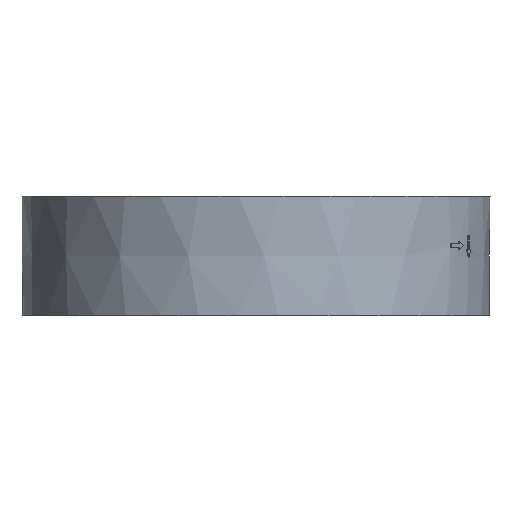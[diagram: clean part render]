
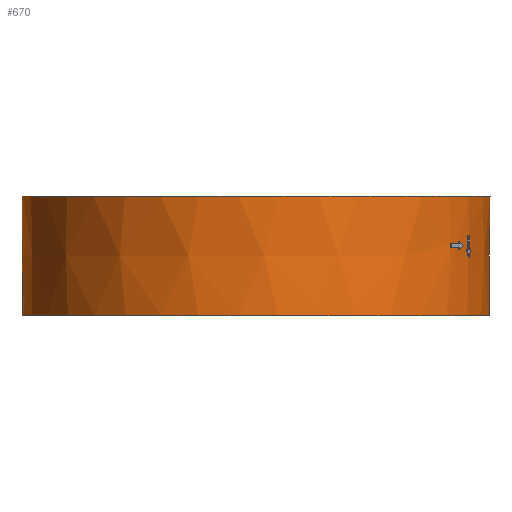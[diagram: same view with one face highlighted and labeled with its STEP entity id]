
A CAD part, left-side view. The second image highlights one B-rep face of the part: STEP entity #670.
In plain terms, the highlighted conical face has half-angle 0.5 degrees and reference radius 75 mm.
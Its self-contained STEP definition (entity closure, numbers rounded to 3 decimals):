
#347=CONICAL_SURFACE('',#7737,75.,0.5);
#365=ELLIPSE('',#7480,6655.148,100.59);
#371=ELLIPSE('',#7523,4982.238,75.305);
#397=FACE_BOUND('',#1682,.T.);
#398=FACE_BOUND('',#1683,.T.);
#399=FACE_BOUND('',#1684,.T.);
#670=ADVANCED_FACE('',(#397,#398,#399),#347,.T.);
#1682=EDGE_LOOP('',(#4321,#4322,#4323,#4324));
#1683=EDGE_LOOP('',(#4325,#4326,#4327,#4328,#4329,#4330,#4331));
#1684=EDGE_LOOP('',(#4332,#4333,#4334,#4335,#4336,#4337,#4338));
#2156=B_SPLINE_CURVE_WITH_KNOTS('',3,(#13487,#13488,#13489,#13490),
 .UNSPECIFIED.,.F.,.F.,(4,4),(0.,1.),.UNSPECIFIED.);
#2157=B_SPLINE_CURVE_WITH_KNOTS('',3,(#13498,#13499,#13500,#13501),
 .UNSPECIFIED.,.F.,.F.,(4,4),(0.,1.),.UNSPECIFIED.);
#2158=B_SPLINE_CURVE_WITH_KNOTS('',3,(#13509,#13510,#13511,#13512,#13513,
#13514,#13515),.UNSPECIFIED.,.F.,.F.,(4,3,4),(0.,0.5,1.),
 .UNSPECIFIED.);
#2160=B_SPLINE_CURVE_WITH_KNOTS('',3,(#13524,#13525,#13526,#13527,#13528,
#13529,#13530,#13531,#13532,#13533),.UNSPECIFIED.,.F.,.F.,(4,3,3,4),(0.,
0.003,0.493,1.),.UNSPECIFIED.);
#2162=B_SPLINE_CURVE_WITH_KNOTS('',3,(#13546,#13547,#13548,#13549),
 .UNSPECIFIED.,.F.,.F.,(4,4),(0.,1.),.UNSPECIFIED.);
#2163=B_SPLINE_CURVE_WITH_KNOTS('',3,(#13553,#13554,#13555,#13556),
 .UNSPECIFIED.,.F.,.F.,(4,4),(0.,1.),.UNSPECIFIED.);
#2165=B_SPLINE_CURVE_WITH_KNOTS('',3,(#13567,#13568,#13569,#13570),
 .UNSPECIFIED.,.F.,.F.,(4,4),(0.,1.),.UNSPECIFIED.);
#2167=B_SPLINE_CURVE_WITH_KNOTS('',3,(#13581,#13582,#13583,#13584),
 .UNSPECIFIED.,.F.,.F.,(4,4),(0.,1.),.UNSPECIFIED.);
#2168=B_SPLINE_CURVE_WITH_KNOTS('',3,(#13592,#13593,#13594,#13595),
 .UNSPECIFIED.,.F.,.F.,(4,4),(0.,1.),.UNSPECIFIED.);
#4321=ORIENTED_EDGE('',*,*,#6500,.T.);
#4322=ORIENTED_EDGE('',*,*,#6247,.T.);
#4323=ORIENTED_EDGE('',*,*,#6636,.T.);
#4324=ORIENTED_EDGE('',*,*,#6324,.F.);
#4325=ORIENTED_EDGE('',*,*,#6551,.F.);
#4326=ORIENTED_EDGE('',*,*,#6550,.T.);
#4327=ORIENTED_EDGE('',*,*,#6548,.T.);
#4328=ORIENTED_EDGE('',*,*,#6546,.T.);
#4329=ORIENTED_EDGE('',*,*,#6544,.F.);
#4330=ORIENTED_EDGE('',*,*,#6542,.F.);
#4331=ORIENTED_EDGE('',*,*,#6540,.T.);
#4332=ORIENTED_EDGE('',*,*,#6537,.F.);
#4333=ORIENTED_EDGE('',*,*,#6536,.F.);
#4334=ORIENTED_EDGE('',*,*,#6534,.T.);
#4335=ORIENTED_EDGE('',*,*,#6532,.T.);
#4336=ORIENTED_EDGE('',*,*,#6530,.T.);
#4337=ORIENTED_EDGE('',*,*,#6528,.F.);
#4338=ORIENTED_EDGE('',*,*,#6526,.T.);
#5454=VERTEX_POINT('',#12251);
#5455=VERTEX_POINT('',#12253);
#5502=VERTEX_POINT('',#12565);
#5503=VERTEX_POINT('',#12567);
#5626=VERTEX_POINT('',#13480);
#5627=VERTEX_POINT('',#13482);
#5628=VERTEX_POINT('',#13486);
#5629=VERTEX_POINT('',#13493);
#5630=VERTEX_POINT('',#13497);
#5631=VERTEX_POINT('',#13504);
#5632=VERTEX_POINT('',#13508);
#5633=VERTEX_POINT('',#13543);
#5634=VERTEX_POINT('',#13545);
#5635=VERTEX_POINT('',#13552);
#5636=VERTEX_POINT('',#13566);
#5637=VERTEX_POINT('',#13580);
#5638=VERTEX_POINT('',#13587);
#5639=VERTEX_POINT('',#13591);
#6247=EDGE_CURVE('',#5455,#5454,#365,.T.);
#6324=EDGE_CURVE('',#5502,#5503,#371,.T.);
#6500=EDGE_CURVE('',#5502,#5455,#7166,.T.);
#6526=EDGE_CURVE('',#5626,#5627,#7175,.T.);
#6528=EDGE_CURVE('',#5626,#5628,#2156,.T.);
#6530=EDGE_CURVE('',#5629,#5628,#7176,.T.);
#6532=EDGE_CURVE('',#5630,#5629,#2157,.T.);
#6534=EDGE_CURVE('',#5631,#5630,#7177,.T.);
#6536=EDGE_CURVE('',#5631,#5632,#2158,.T.);
#6537=EDGE_CURVE('',#5632,#5627,#2160,.T.);
#6540=EDGE_CURVE('',#5633,#5634,#2162,.T.);
#6542=EDGE_CURVE('',#5633,#5635,#2163,.T.);
#6544=EDGE_CURVE('',#5635,#5636,#2165,.T.);
#6546=EDGE_CURVE('',#5637,#5636,#2167,.T.);
#6548=EDGE_CURVE('',#5638,#5637,#7178,.T.);
#6550=EDGE_CURVE('',#5639,#5638,#2168,.T.);
#6551=EDGE_CURVE('',#5639,#5634,#7179,.T.);
#6636=EDGE_CURVE('',#5454,#5503,#7204,.T.);
#7166=CIRCLE('',#7653,75.);
#7175=CIRCLE('',#7667,74.852);
#7176=CIRCLE('',#7670,74.889);
#7177=CIRCLE('',#7673,74.852);
#7178=CIRCLE('',#7677,74.869);
#7179=CIRCLE('',#7680,74.856);
#7204=CIRCLE('',#7728,74.667);
#7480=AXIS2_PLACEMENT_3D('',#12252,#8342,#8343);
#7523=AXIS2_PLACEMENT_3D('',#12566,#8459,#8460);
#7653=AXIS2_PLACEMENT_3D('',#13346,#8759,#8760);
#7667=AXIS2_PLACEMENT_3D('',#13483,#8794,#8795);
#7670=AXIS2_PLACEMENT_3D('',#13494,#8802,#8803);
#7673=AXIS2_PLACEMENT_3D('',#13505,#8810,#8811);
#7677=AXIS2_PLACEMENT_3D('',#13588,#8829,#8830);
#7680=AXIS2_PLACEMENT_3D('',#13597,#8836,#8837);
#7728=AXIS2_PLACEMENT_3D('',#14350,#8959,#8960);
#7737=AXIS2_PLACEMENT_3D('',#14504,#8982,#8983);
#8342=DIRECTION('',(0.987,0.162,0.017));
#8343=DIRECTION('',(-0.017,-0.003,1.));
#8459=DIRECTION('',(0.987,0.162,-0.017));
#8460=DIRECTION('',(0.017,0.003,1.));
#8759=DIRECTION('',(0.,0.,-1.));
#8760=DIRECTION('',(1.,0.,0.));
#8794=DIRECTION('',(0.,0.,1.));
#8795=DIRECTION('',(1.,0.,0.));
#8802=DIRECTION('',(0.,0.,1.));
#8803=DIRECTION('',(1.,0.,0.));
#8810=DIRECTION('',(0.,0.,1.));
#8811=DIRECTION('',(1.,0.,0.));
#8829=DIRECTION('',(0.,0.,1.));
#8830=DIRECTION('',(1.,0.,0.));
#8836=DIRECTION('',(0.,0.,1.));
#8837=DIRECTION('',(-1.,0.,0.));
#8959=DIRECTION('',(0.,0.,1.));
#8960=DIRECTION('',(1.,0.,0.));
#8982=DIRECTION('',(0.,0.,1.));
#8983=DIRECTION('',(1.,0.,0.));
#12251=CARTESIAN_POINT('',(35.948,-65.443,-8.6));
#12252=CARTESIAN_POINT('',(-57.306,-9.384,4744.734));
#12253=CARTESIAN_POINT('',(35.385,-66.128,29.6));
#12565=CARTESIAN_POINT('',(31.01,-68.289,29.6));
#12566=CARTESIAN_POINT('',(42.901,7.025,1399.17));
#12567=CARTESIAN_POINT('',(30.325,-68.231,-8.6));
#13346=CARTESIAN_POINT('',(0.,0.,29.6));
#13480=CARTESIAN_POINT('',(-30.945,-68.156,12.664));
#13482=CARTESIAN_POINT('',(-30.316,-68.438,12.664));
#13483=CARTESIAN_POINT('',(0.,0.,12.664));
#13486=CARTESIAN_POINT('',(-30.973,-68.184,16.939));
#13487=CARTESIAN_POINT('',(-30.945,-68.156,12.664));
#13488=CARTESIAN_POINT('',(-30.954,-68.166,14.089));
#13489=CARTESIAN_POINT('',(-30.963,-68.175,15.514));
#13490=CARTESIAN_POINT('',(-30.973,-68.184,16.939));
#13493=CARTESIAN_POINT('',(-32.298,-67.567,16.939));
#13494=CARTESIAN_POINT('',(0.,0.,16.939));
#13497=CARTESIAN_POINT('',(-32.27,-67.539,12.664));
#13498=CARTESIAN_POINT('',(-32.27,-67.539,12.664));
#13499=CARTESIAN_POINT('',(-32.279,-67.548,14.089));
#13500=CARTESIAN_POINT('',(-32.289,-67.557,15.514));
#13501=CARTESIAN_POINT('',(-32.298,-67.567,16.939));
#13504=CARTESIAN_POINT('',(-32.903,-67.233,12.664));
#13505=CARTESIAN_POINT('',(0.,0.,12.664));
#13508=CARTESIAN_POINT('',(-31.583,-67.836,9.865));
#13509=CARTESIAN_POINT('',(-32.903,-67.233,12.664));
#13510=CARTESIAN_POINT('',(-32.683,-67.336,12.198));
#13511=CARTESIAN_POINT('',(-32.463,-67.438,11.732));
#13512=CARTESIAN_POINT('',(-32.243,-67.538,11.266));
#13513=CARTESIAN_POINT('',(-32.023,-67.639,10.799));
#13514=CARTESIAN_POINT('',(-31.803,-67.738,10.332));
#13515=CARTESIAN_POINT('',(-31.583,-67.836,9.865));
#13524=CARTESIAN_POINT('',(-31.583,-67.836,9.865));
#13525=CARTESIAN_POINT('',(-31.582,-67.837,9.868));
#13526=CARTESIAN_POINT('',(-31.58,-67.837,9.871));
#13527=CARTESIAN_POINT('',(-31.579,-67.838,9.874));
#13528=CARTESIAN_POINT('',(-31.372,-67.939,10.33));
#13529=CARTESIAN_POINT('',(-31.165,-68.038,10.787));
#13530=CARTESIAN_POINT('',(-30.959,-68.136,11.243));
#13531=CARTESIAN_POINT('',(-30.744,-68.238,11.716));
#13532=CARTESIAN_POINT('',(-30.53,-68.339,12.19));
#13533=CARTESIAN_POINT('',(-30.316,-68.438,12.664));
#13543=CARTESIAN_POINT('',(-37.692,-64.667,12.431));
#13545=CARTESIAN_POINT('',(-37.697,-64.671,13.113));
#13546=CARTESIAN_POINT('',(-37.692,-64.667,12.431));
#13547=CARTESIAN_POINT('',(-37.694,-64.669,12.658));
#13548=CARTESIAN_POINT('',(-37.695,-64.67,12.886));
#13549=CARTESIAN_POINT('',(-37.697,-64.671,13.113));
#13552=CARTESIAN_POINT('',(-35.07,-66.14,13.836));
#13553=CARTESIAN_POINT('',(-37.692,-64.667,12.431));
#13554=CARTESIAN_POINT('',(-36.826,-65.177,12.893));
#13555=CARTESIAN_POINT('',(-35.951,-65.668,13.361));
#13556=CARTESIAN_POINT('',(-35.07,-66.14,13.836));
#13566=CARTESIAN_POINT('',(-37.71,-64.685,15.23));
#13567=CARTESIAN_POINT('',(-35.07,-66.14,13.836));
#13568=CARTESIAN_POINT('',(-35.957,-65.674,14.306));
#13569=CARTESIAN_POINT('',(-36.838,-65.189,14.771));
#13570=CARTESIAN_POINT('',(-37.71,-64.685,15.23));
#13580=CARTESIAN_POINT('',(-37.706,-64.681,14.547));
#13581=CARTESIAN_POINT('',(-37.706,-64.681,14.547));
#13582=CARTESIAN_POINT('',(-37.707,-64.682,14.775));
#13583=CARTESIAN_POINT('',(-37.709,-64.683,15.002));
#13584=CARTESIAN_POINT('',(-37.71,-64.685,15.23));
#13587=CARTESIAN_POINT('',(-41.771,-62.133,14.547));
#13588=CARTESIAN_POINT('',(0.,0.,14.547));
#13591=CARTESIAN_POINT('',(-41.762,-62.124,13.113));
#13592=CARTESIAN_POINT('',(-41.762,-62.124,13.113));
#13593=CARTESIAN_POINT('',(-41.765,-62.127,13.591));
#13594=CARTESIAN_POINT('',(-41.768,-62.13,14.069));
#13595=CARTESIAN_POINT('',(-41.771,-62.133,14.547));
#13597=CARTESIAN_POINT('',(0.,0.,13.113));
#14350=CARTESIAN_POINT('',(0.,0.,-8.6));
#14504=CARTESIAN_POINT('',(0.,0.,29.6));
